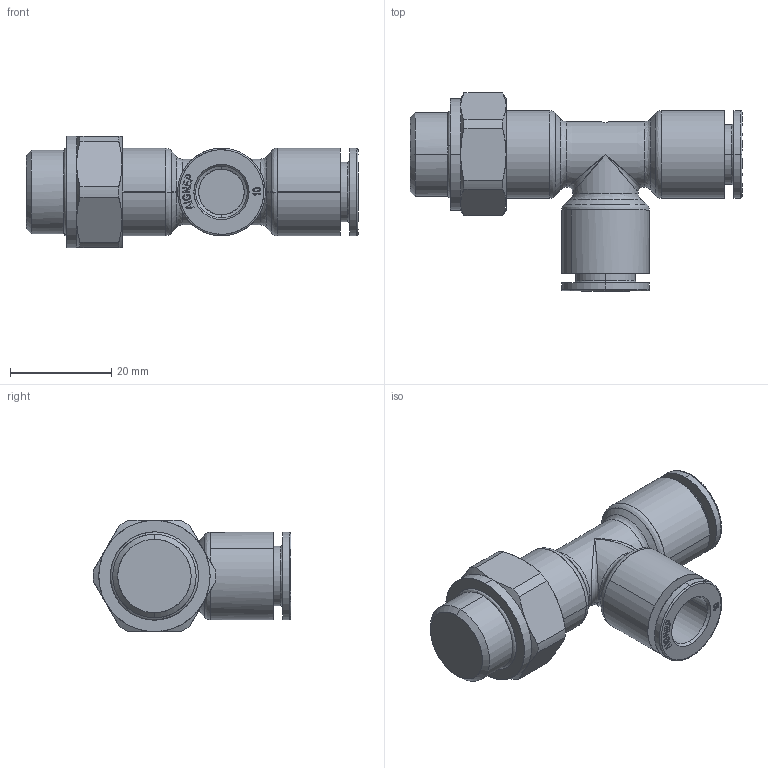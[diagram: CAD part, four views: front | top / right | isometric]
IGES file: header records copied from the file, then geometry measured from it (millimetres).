
Start section: SolidWorks IGES file using analytic representation for surfaces
Global section: file name: K:\Disegni Esecutivi\SERIE 54000\54000-Assiemi\54227\IGES e STEP\5422700022A.IGS; native system: SolidWorks 2020; preprocessor: SolidWorks 2020; author: LUCA COMETTI; date: 250701.163042; units: millimetre
Bounding box: 65.65 x 39.15 x 22 mm (x, y, z)
Surface area: 7428 mm2 (no closed solid volume)
Topology: 0 solids, 0 shells, 295 faces, 2941 edges, 2937 vertices
Faces by surface type: bspline 229, revolution 66
